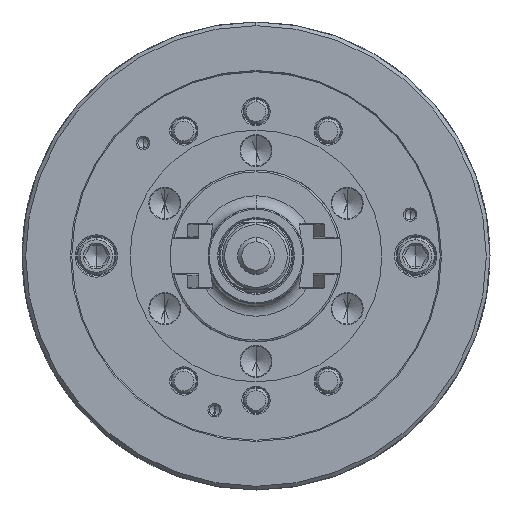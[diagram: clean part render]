
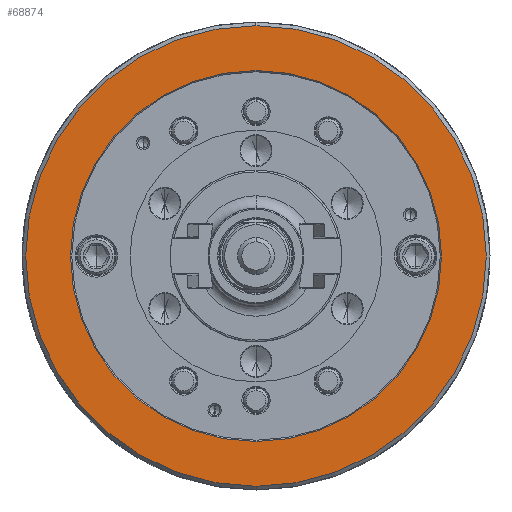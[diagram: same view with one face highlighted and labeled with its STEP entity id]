
A CAD part, left-side view. The second image highlights one B-rep face of the part: STEP entity #68874.
In plain terms, the highlighted planar face has unit normal (-1, 0, 0).
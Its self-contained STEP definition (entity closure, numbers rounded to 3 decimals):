
#2928 = VERTEX_POINT ( 'NONE', #31042 ) ;
#6776 = AXIS2_PLACEMENT_3D ( 'NONE', #76591, #30660, #28825 ) ;
#8322 = AXIS2_PLACEMENT_3D ( 'NONE', #101004, #15495, #99810 ) ;
#8332 = CARTESIAN_POINT ( 'NONE',  ( -114., 0., -187.5 ) ) ;
#8571 = DIRECTION ( 'NONE',  ( 1., 0., 0. ) ) ;
#9610 = EDGE_CURVE ( 'NONE', #14525, #30788, #30486, .T. ) ;
#14525 = VERTEX_POINT ( 'NONE', #113897 ) ;
#15495 = DIRECTION ( 'NONE',  ( 1., 0., 0. ) ) ;
#23376 = EDGE_LOOP ( 'NONE', ( #89109, #104513 ) ) ;
#28825 = DIRECTION ( 'NONE',  ( 0., 0., -1. ) ) ;
#30486 = CIRCLE ( 'NONE', #6776, 187.5 ) ;
#30660 = DIRECTION ( 'NONE',  ( 1., 0., 0. ) ) ;
#30788 = VERTEX_POINT ( 'NONE', #8332 ) ;
#31042 = CARTESIAN_POINT ( 'NONE',  ( -114., 0., -151. ) ) ;
#45920 = CIRCLE ( 'NONE', #8322, 187.5 ) ;
#46498 = AXIS2_PLACEMENT_3D ( 'NONE', #103981, #8571, #75511 ) ;
#49446 = AXIS2_PLACEMENT_3D ( 'NONE', #77534, #96125, #107211 ) ;
#50538 = ORIENTED_EDGE ( 'NONE', *, *, #114695, .F. ) ;
#56983 = ORIENTED_EDGE ( 'NONE', *, *, #9610, .F. ) ;
#57680 = FACE_OUTER_BOUND ( 'NONE', #90121, .T. ) ;
#58846 = AXIS2_PLACEMENT_3D ( 'NONE', #102531, #84571, #92040 ) ;
#63096 = VERTEX_POINT ( 'NONE', #79959 ) ;
#65474 = EDGE_CURVE ( 'NONE', #63096, #2928, #72717, .T. ) ;
#68874 = ADVANCED_FACE ( 'NONE', ( #57680, #69425 ), #114069, .F. ) ;
#69425 = FACE_BOUND ( 'NONE', #23376, .T. ) ;
#72717 = CIRCLE ( 'NONE', #58846, 151. ) ;
#75511 = DIRECTION ( 'NONE',  ( 0., 0., -1. ) ) ;
#76591 = CARTESIAN_POINT ( 'NONE',  ( -114., 0., 0. ) ) ;
#77534 = CARTESIAN_POINT ( 'NONE',  ( -114., -187.5, 0. ) ) ;
#79959 = CARTESIAN_POINT ( 'NONE',  ( -114., 0., 151. ) ) ;
#84571 = DIRECTION ( 'NONE',  ( 1., 0., 0. ) ) ;
#89109 = ORIENTED_EDGE ( 'NONE', *, *, #65474, .T. ) ;
#90121 = EDGE_LOOP ( 'NONE', ( #50538, #56983 ) ) ;
#92040 = DIRECTION ( 'NONE',  ( 0., 0., -1. ) ) ;
#96125 = DIRECTION ( 'NONE',  ( 1., 0., 0. ) ) ;
#99810 = DIRECTION ( 'NONE',  ( 0., 0., -1. ) ) ;
#99953 = CIRCLE ( 'NONE', #46498, 151. ) ;
#101004 = CARTESIAN_POINT ( 'NONE',  ( -114., 0., 0. ) ) ;
#102531 = CARTESIAN_POINT ( 'NONE',  ( -114., 0., 0. ) ) ;
#103981 = CARTESIAN_POINT ( 'NONE',  ( -114., 0., 0. ) ) ;
#104513 = ORIENTED_EDGE ( 'NONE', *, *, #119510, .T. ) ;
#107211 = DIRECTION ( 'NONE',  ( 0., 0., -1. ) ) ;
#113897 = CARTESIAN_POINT ( 'NONE',  ( -114., 0., 187.5 ) ) ;
#114069 = PLANE ( 'NONE',  #49446 ) ;
#114695 = EDGE_CURVE ( 'NONE', #30788, #14525, #45920, .T. ) ;
#119510 = EDGE_CURVE ( 'NONE', #2928, #63096, #99953, .T. ) ;
